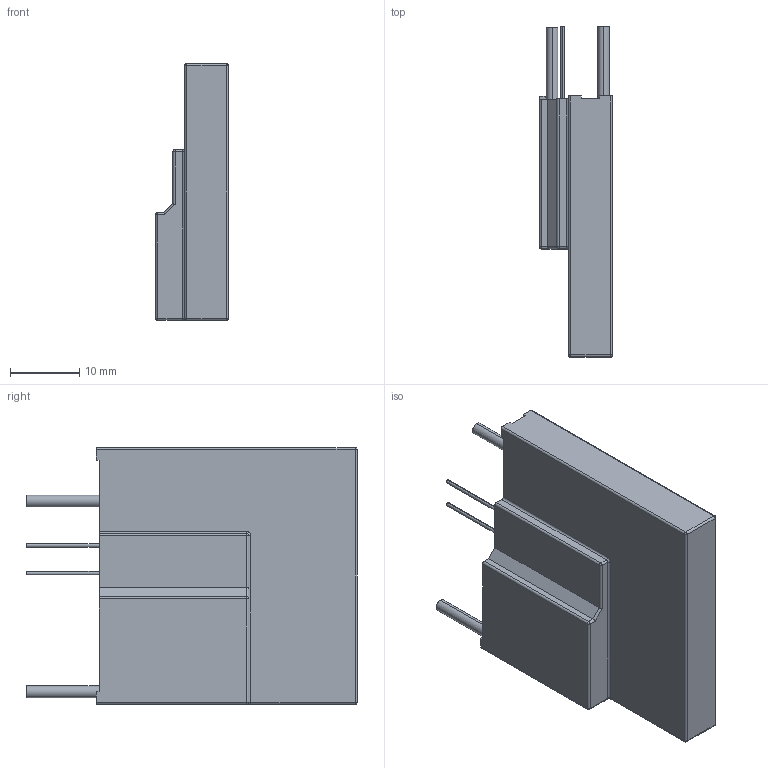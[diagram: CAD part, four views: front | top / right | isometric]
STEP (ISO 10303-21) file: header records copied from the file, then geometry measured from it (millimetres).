
FILE_DESCRIPTION((''),'2;1');
FILE_NAME('TFMOV34S','2020-07-15T13:22:46',('SET-00098'),(''),'CREO PARAMETRIC BY PTC INC, 2018400','CREO PARAMETRIC BY PTC INC, 2018400','');
FILE_SCHEMA(('CONFIG_CONTROL_DESIGN'));
Length unit declared in the file: millimetre
Products named in the file (1): TFMOV34S
Bounding box: 10.5 x 47.6 x 37 mm (x, y, z)
Volume: 10479.7 mm3; surface area: 4124.6 mm2
Topology: 1 solids, 1 shells, 72 faces, 171 edges, 105 vertices
Faces by surface type: plane 36, cylinder 27, sphere 7, torus 2
Entity records: 2099 total; most frequent: DIRECTION 365, CARTESIAN_POINT 362, ORIENTED_EDGE 342, EDGE_CURVE 171, AXIS2_PLACEMENT_3D 124, VECTOR 117, LINE 117, VERTEX_POINT 105
